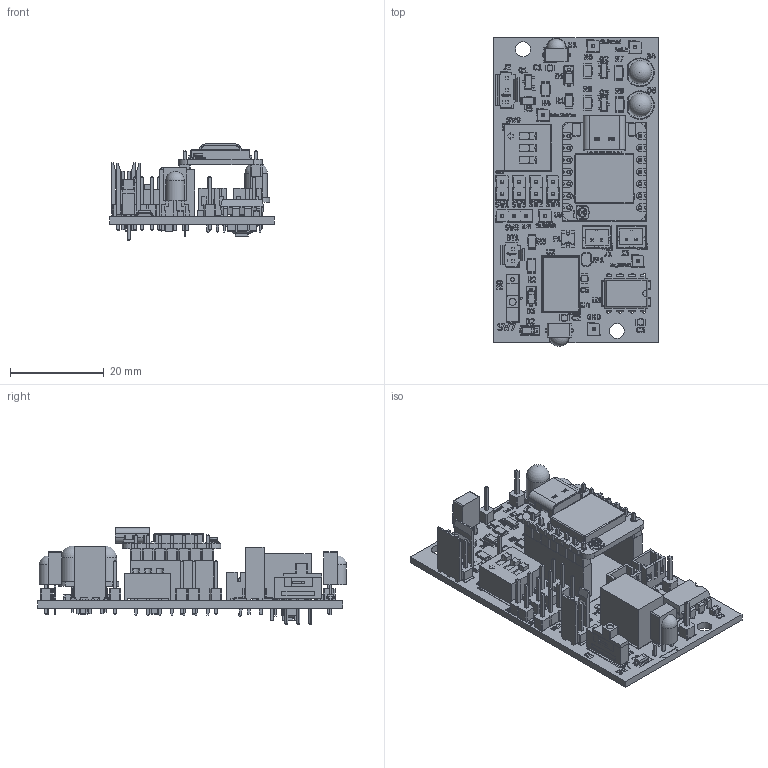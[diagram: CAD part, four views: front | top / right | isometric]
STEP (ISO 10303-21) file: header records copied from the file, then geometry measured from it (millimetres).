
FILE_DESCRIPTION(('KiCad electronic assembly'),'2;1');
FILE_NAME('XIAO_ESP32_Synthese.step','2025-05-05T18:23:28',('Pcbnew'),( 'Kicad'),'Open CASCADE STEP processor 7.8','KiCad to STEP converter' ,'Unknown');
FILE_SCHEMA(('AUTOMOTIVE_DESIGN { 1 0 10303 214 1 1 1 1 }'));
Length unit declared in the file: millimetre
Products named in the file (26): XIAO_ESP32_Synthese 1; D_SOD-123; PinHeader_1x01_P2.54mm_Vertical; SOT-23; SW_DIP_SPSTx03_Slide_9.78x9.8mm_W7.62mm_P2.54mm; R_1206_3216Metric; C_0805_2012Metric; Polyswitch_MICROSMD110F-2; PinHeader_1x02_P2.54mm_Vertical; TSR-1_TRACO_POWER_THT; JST_PH_B2B-PH-K_1x02_P2.00mm_Vertical; PinHeader_1x03_P2.54mm_Vertical; Embase_AMPMODU_HE14_Droite_2; SIP_1K2_EAO_Noir; Vishay_MINICAST-3Pin; DIP-8_W7.62mm; XIAO-ESP32S3 v2; XIAO_ESP32_Synthese 1.30.1; PinHeader_1x07_P2.54mm_Vertical; PinSocket_1x07_P2.54mm_Vertical; LED_D5.0mm_Clear; Embase_AMPMODU_HE14_Droite_3; C_1206_3216Metric; Tactile_SMD_3x6x2.5mm; XIAO_ESP32_Synthese_silkscreen; XIAO_ESP32_Synthese_PCB
Assembly tree (55 placements, depth 3):
  XIAO_ESP32_Synthese 1
    D_SOD-123  x3
    PinHeader_1x01_P2.54mm_Vertical  x6
    SOT-23  x3
    SW_DIP_SPSTx03_Slide_9.78x9.8mm_W7.62mm_P2.54mm
    R_1206_3216Metric  x9
    C_0805_2012Metric  x6
    Polyswitch_MICROSMD110F-2
    PinHeader_1x02_P2.54mm_Vertical  x4
    TSR-1_TRACO_POWER_THT
    JST_PH_B2B-PH-K_1x02_P2.00mm_Vertical  x2
    PinHeader_1x03_P2.54mm_Vertical
    Embase_AMPMODU_HE14_Droite_2
    SIP_1K2_EAO_Noir
    Vishay_MINICAST-3Pin  x2
    DIP-8_W7.62mm
    XIAO-ESP32S3 v2
      XIAO_ESP32_Synthese 1.30.1
    PinHeader_1x07_P2.54mm_Vertical  x2
    PinSocket_1x07_P2.54mm_Vertical  x2
    LED_D5.0mm_Clear  x2
    Embase_AMPMODU_HE14_Droite_3
    C_1206_3216Metric
    Tactile_SMD_3x6x2.5mm
    XIAO_ESP32_Synthese_silkscreen
    XIAO_ESP32_Synthese_PCB
Bounding box: 35 x 65.8 x 20.46 mm (x, y, z)
Volume: 8109.8 mm3; surface area: 14263.2 mm2
Topology: 93 solids, 404 shells, 4471 faces, 15867 edges, 12266 vertices
Faces by surface type: plane 3575, cylinder 663, bspline 192, torus 18, sphere 14, cone 9
Full cylindrical faces by diameter (mm): 0.5 x3, 0.6 x2, 0.75 x18, 0.8 x17, 0.9 x10, 1 x39, 1.524 x8, 1.72 x1, 1.86 x1, 2 x2, 3.2 x2, 4.9 x2
Entity records: 141459 total; most frequent: CARTESIAN_POINT 26298, DIRECTION 20393, ORIENTED_EDGE 18908, EDGE_CURVE 12006, LINE 9731, VECTOR 9731, VERTEX_POINT 9570, AXIS2_PLACEMENT_3D 5331
